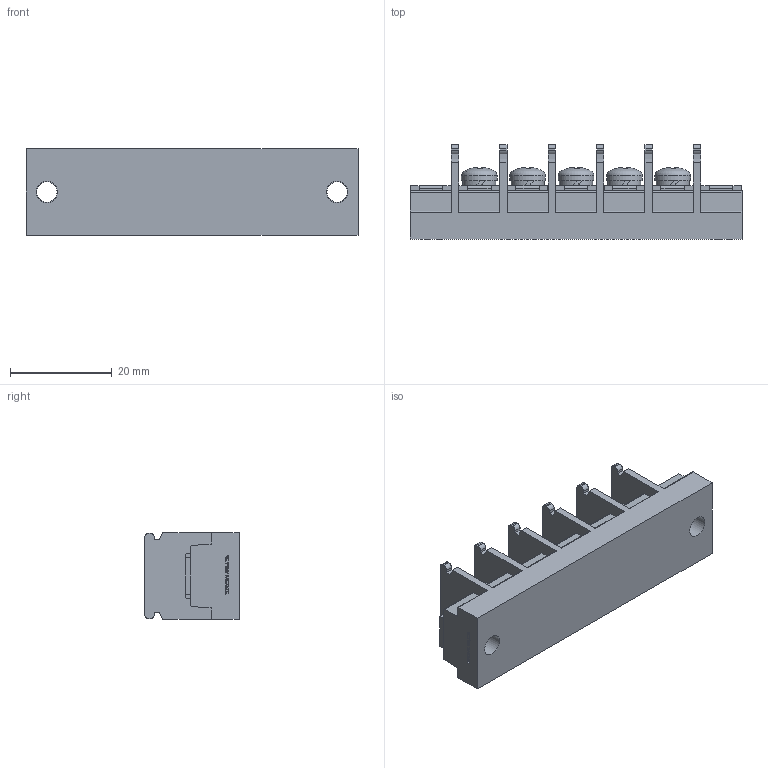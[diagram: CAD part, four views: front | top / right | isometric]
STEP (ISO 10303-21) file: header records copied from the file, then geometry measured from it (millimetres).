
FILE_DESCRIPTION(/* description */ ('Alibre Inc.'),/* implementation_level */ '2;1');
FILE_NAME(/* name */ 'export-EA5486BB-FD5A-4AFA-B1C0-0A71C06DC42C',/* time_stamp */ '2021-02-02T10:29:31+09:00',/* author */ (''),/* organization */ (''),/* preprocessor_version */ 'ST-DEVELOPER v17',/* originating_system */ 'Alibre',/* authorisation */ '');
FILE_SCHEMA (('CONFIG_CONTROL_DESIGN'));
Length unit declared in the file: millimetre
Bounding box: 65.2 x 18.5 x 17 mm (x, y, z)
Volume: 11221.7 mm3; surface area: 7190.7 mm2
Topology: 1 solids, 6 shells, 790 faces, 2159 edges, 1435 vertices
Faces by surface type: plane 556, bspline 104, cylinder 90, cone 25, torus 10, sphere 5
Full cylindrical faces by diameter (mm): 4 x12, 4.2 x2, 6.5 x5, 7 x5
Entity records: 24229 total; most frequent: CARTESIAN_POINT 5404, ORIENTED_EDGE 4206, DIRECTION 3008, EDGE_CURVE 2103, VECTOR 1520, LINE 1520, VERTEX_POINT 1413, AXIS2_PLACEMENT_3D 1023
